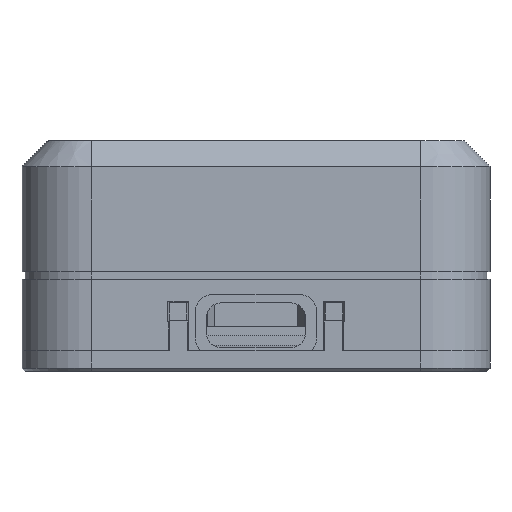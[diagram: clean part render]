
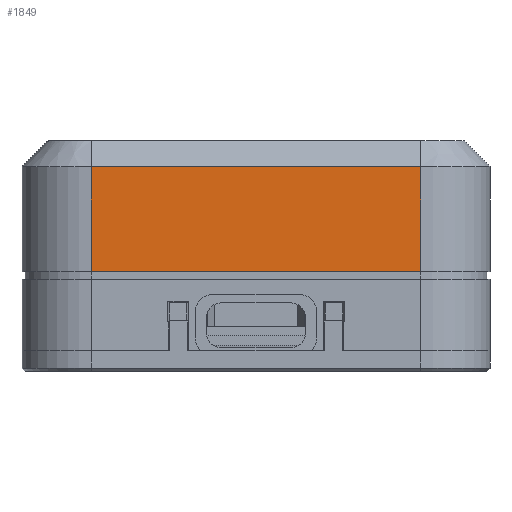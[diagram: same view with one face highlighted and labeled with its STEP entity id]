
A CAD part, front view. The second image highlights one B-rep face of the part: STEP entity #1849.
In plain terms, the highlighted planar face has unit normal (0, -1, 0).
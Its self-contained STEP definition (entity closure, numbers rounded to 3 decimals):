
#245 = PLANE('',#246);
#246 = AXIS2_PLACEMENT_3D('',#247,#248,#249);
#247 = CARTESIAN_POINT('',(19.,-22.5,25.1));
#248 = DIRECTION('',(0.,0.707,-0.707)
  );
#249 = DIRECTION('',(1.,0.,0.));
#843 = VERTEX_POINT('',#844);
#844 = CARTESIAN_POINT('',(19.,-24.,23.6));
#878 = CYLINDRICAL_SURFACE('',#879,8.);
#879 = AXIS2_PLACEMENT_3D('',#880,#881,#882);
#880 = CARTESIAN_POINT('',(19.,-16.,2.4));
#881 = DIRECTION('',(0.,0.,1.));
#882 = DIRECTION('',(1.,0.,-0.));
#896 = VERTEX_POINT('',#897);
#897 = CARTESIAN_POINT('',(-19.,-24.,23.6));
#916 = EDGE_CURVE('',#843,#896,#917,.T.);
#917 = SURFACE_CURVE('',#918,(#922,#929),.PCURVE_S1.);
#918 = LINE('',#919,#920);
#919 = CARTESIAN_POINT('',(19.,-24.,23.6));
#920 = VECTOR('',#921,1.);
#921 = DIRECTION('',(-1.,-0.,-0.));
#922 = PCURVE('',#245,#923);
#923 = DEFINITIONAL_REPRESENTATION('',(#924),#928);
#924 = LINE('',#925,#926);
#925 = CARTESIAN_POINT('',(-0.,2.121));
#926 = VECTOR('',#927,1.);
#927 = DIRECTION('',(-1.,0.));
#928 = ( GEOMETRIC_REPRESENTATION_CONTEXT(2) 
PARAMETRIC_REPRESENTATION_CONTEXT() REPRESENTATION_CONTEXT('2D SPACE',''
  ) );
#929 = PCURVE('',#930,#935);
#930 = PLANE('',#931);
#931 = AXIS2_PLACEMENT_3D('',#932,#933,#934);
#932 = CARTESIAN_POINT('',(-27.,-24.,2.4));
#933 = DIRECTION('',(0.,1.,0.));
#934 = DIRECTION('',(0.,0.,1.));
#935 = DEFINITIONAL_REPRESENTATION('',(#936),#940);
#936 = LINE('',#937,#938);
#937 = CARTESIAN_POINT('',(21.2,46.));
#938 = VECTOR('',#939,1.);
#939 = DIRECTION('',(0.,-1.));
#940 = ( GEOMETRIC_REPRESENTATION_CONTEXT(2) 
PARAMETRIC_REPRESENTATION_CONTEXT() REPRESENTATION_CONTEXT('2D SPACE',''
  ) );
#1023 = CYLINDRICAL_SURFACE('',#1024,8.);
#1024 = AXIS2_PLACEMENT_3D('',#1025,#1026,#1027);
#1025 = CARTESIAN_POINT('',(-19.,-16.,2.4));
#1026 = DIRECTION('',(0.,0.,1.));
#1027 = DIRECTION('',(-1.,-0.,0.));
#1622 = PLANE('',#1623);
#1623 = AXIS2_PLACEMENT_3D('',#1624,#1625,#1626);
#1624 = CARTESIAN_POINT('',(-27.5,-24.5,11.5));
#1625 = DIRECTION('',(0.,0.,1.));
#1626 = DIRECTION('',(1.,0.,0.));
#1805 = VERTEX_POINT('',#1806);
#1806 = CARTESIAN_POINT('',(19.,-24.,11.5));
#1828 = EDGE_CURVE('',#1805,#843,#1829,.T.);
#1829 = SURFACE_CURVE('',#1830,(#1834,#1841),.PCURVE_S1.);
#1830 = LINE('',#1831,#1832);
#1831 = CARTESIAN_POINT('',(19.,-24.,2.4));
#1832 = VECTOR('',#1833,1.);
#1833 = DIRECTION('',(0.,0.,1.));
#1834 = PCURVE('',#878,#1835);
#1835 = DEFINITIONAL_REPRESENTATION('',(#1836),#1840);
#1836 = LINE('',#1837,#1838);
#1837 = CARTESIAN_POINT('',(-1.571,0.));
#1838 = VECTOR('',#1839,1.);
#1839 = DIRECTION('',(-0.,1.));
#1840 = ( GEOMETRIC_REPRESENTATION_CONTEXT(2) 
PARAMETRIC_REPRESENTATION_CONTEXT() REPRESENTATION_CONTEXT('2D SPACE',''
  ) );
#1841 = PCURVE('',#930,#1842);
#1842 = DEFINITIONAL_REPRESENTATION('',(#1843),#1847);
#1843 = LINE('',#1844,#1845);
#1844 = CARTESIAN_POINT('',(0.,46.));
#1845 = VECTOR('',#1846,1.);
#1846 = DIRECTION('',(1.,0.));
#1847 = ( GEOMETRIC_REPRESENTATION_CONTEXT(2) 
PARAMETRIC_REPRESENTATION_CONTEXT() REPRESENTATION_CONTEXT('2D SPACE',''
  ) );
#1849 = ADVANCED_FACE('',(#1850),#930,.F.);
#1850 = FACE_BOUND('',#1851,.F.);
#1851 = EDGE_LOOP('',(#1852,#1873,#1894,#1895));
#1852 = ORIENTED_EDGE('',*,*,#1853,.F.);
#1853 = EDGE_CURVE('',#1854,#1805,#1856,.T.);
#1854 = VERTEX_POINT('',#1855);
#1855 = CARTESIAN_POINT('',(-19.,-24.,11.5));
#1856 = SURFACE_CURVE('',#1857,(#1861,#1867),.PCURVE_S1.);
#1857 = LINE('',#1858,#1859);
#1858 = CARTESIAN_POINT('',(-27.25,-24.,11.5));
#1859 = VECTOR('',#1860,1.);
#1860 = DIRECTION('',(1.,0.,0.));
#1861 = PCURVE('',#930,#1862);
#1862 = DEFINITIONAL_REPRESENTATION('',(#1863),#1866);
#1863 = B_SPLINE_CURVE_WITH_KNOTS('',1,(#1864,#1865),.UNSPECIFIED.,.F.,
  .F.,(2,2),(8.25,46.25),.PIECEWISE_BEZIER_KNOTS.);
#1864 = CARTESIAN_POINT('',(9.1,8.));
#1865 = CARTESIAN_POINT('',(9.1,46.));
#1866 = ( GEOMETRIC_REPRESENTATION_CONTEXT(2) 
PARAMETRIC_REPRESENTATION_CONTEXT() REPRESENTATION_CONTEXT('2D SPACE',''
  ) );
#1867 = PCURVE('',#1622,#1868);
#1868 = DEFINITIONAL_REPRESENTATION('',(#1869),#1872);
#1869 = B_SPLINE_CURVE_WITH_KNOTS('',1,(#1870,#1871),.UNSPECIFIED.,.F.,
  .F.,(2,2),(8.25,46.25),.PIECEWISE_BEZIER_KNOTS.);
#1870 = CARTESIAN_POINT('',(8.5,0.5));
#1871 = CARTESIAN_POINT('',(46.5,0.5));
#1872 = ( GEOMETRIC_REPRESENTATION_CONTEXT(2) 
PARAMETRIC_REPRESENTATION_CONTEXT() REPRESENTATION_CONTEXT('2D SPACE',''
  ) );
#1873 = ORIENTED_EDGE('',*,*,#1874,.T.);
#1874 = EDGE_CURVE('',#1854,#896,#1875,.T.);
#1875 = SURFACE_CURVE('',#1876,(#1880,#1887),.PCURVE_S1.);
#1876 = LINE('',#1877,#1878);
#1877 = CARTESIAN_POINT('',(-19.,-24.,2.4));
#1878 = VECTOR('',#1879,1.);
#1879 = DIRECTION('',(0.,0.,1.));
#1880 = PCURVE('',#930,#1881);
#1881 = DEFINITIONAL_REPRESENTATION('',(#1882),#1886);
#1882 = LINE('',#1883,#1884);
#1883 = CARTESIAN_POINT('',(0.,8.));
#1884 = VECTOR('',#1885,1.);
#1885 = DIRECTION('',(1.,0.));
#1886 = ( GEOMETRIC_REPRESENTATION_CONTEXT(2) 
PARAMETRIC_REPRESENTATION_CONTEXT() REPRESENTATION_CONTEXT('2D SPACE',''
  ) );
#1887 = PCURVE('',#1023,#1888);
#1888 = DEFINITIONAL_REPRESENTATION('',(#1889),#1893);
#1889 = LINE('',#1890,#1891);
#1890 = CARTESIAN_POINT('',(1.571,0.));
#1891 = VECTOR('',#1892,1.);
#1892 = DIRECTION('',(0.,1.));
#1893 = ( GEOMETRIC_REPRESENTATION_CONTEXT(2) 
PARAMETRIC_REPRESENTATION_CONTEXT() REPRESENTATION_CONTEXT('2D SPACE',''
  ) );
#1894 = ORIENTED_EDGE('',*,*,#916,.F.);
#1895 = ORIENTED_EDGE('',*,*,#1828,.F.);
